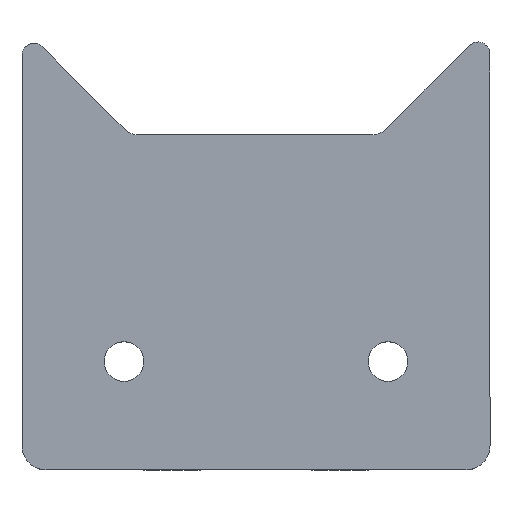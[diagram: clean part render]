
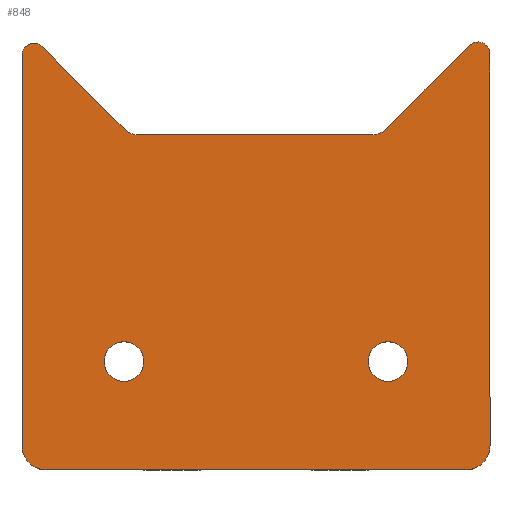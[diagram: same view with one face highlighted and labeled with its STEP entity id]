
A CAD part, top view. The second image highlights one B-rep face of the part: STEP entity #848.
In plain terms, the highlighted planar face has unit normal (0, 0, 1).
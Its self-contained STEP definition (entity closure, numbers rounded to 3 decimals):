
#47=FACE_BOUND('',#137,.T.);
#48=FACE_BOUND('',#138,.T.);
#58=PLANE('',#933);
#85=FACE_OUTER_BOUND('',#136,.T.);
#136=EDGE_LOOP('',(#641,#642,#643,#644,#645,#646,#647,#648,#649,#650,#651,
#652));
#137=EDGE_LOOP('',(#653));
#138=EDGE_LOOP('',(#654));
#184=LINE('',#1283,#249);
#202=LINE('',#1340,#267);
#208=LINE('',#1357,#273);
#212=LINE('',#1369,#277);
#215=LINE('',#1380,#280);
#216=LINE('',#1383,#281);
#249=VECTOR('',#1019,10.);
#267=VECTOR('',#1065,10.);
#273=VECTOR('',#1081,10.);
#277=VECTOR('',#1093,10.);
#280=VECTOR('',#1106,10.);
#281=VECTOR('',#1109,10.);
#310=CIRCLE('',#903,1.);
#321=CIRCLE('',#919,2.);
#326=CIRCLE('',#927,1.);
#327=CIRCLE('',#932,2.);
#328=CIRCLE('',#934,1.5);
#329=CIRCLE('',#935,1.5);
#330=CIRCLE('',#936,1.65);
#331=CIRCLE('',#937,1.65);
#356=VERTEX_POINT('',#1268);
#357=VERTEX_POINT('',#1269);
#362=VERTEX_POINT('',#1281);
#385=VERTEX_POINT('',#1333);
#386=VERTEX_POINT('',#1335);
#387=VERTEX_POINT('',#1339);
#394=VERTEX_POINT('',#1359);
#395=VERTEX_POINT('',#1361);
#397=VERTEX_POINT('',#1367);
#399=VERTEX_POINT('',#1377);
#400=VERTEX_POINT('',#1379);
#401=VERTEX_POINT('',#1381);
#402=VERTEX_POINT('',#1384);
#403=VERTEX_POINT('',#1386);
#438=EDGE_CURVE('',#356,#357,#310,.T.);
#445=EDGE_CURVE('',#356,#362,#184,.T.);
#471=EDGE_CURVE('',#385,#386,#321,.T.);
#473=EDGE_CURVE('',#387,#386,#202,.T.);
#483=EDGE_CURVE('',#385,#357,#208,.F.);
#485=EDGE_CURVE('',#394,#395,#326,.T.);
#489=EDGE_CURVE('',#394,#397,#212,.F.);
#492=EDGE_CURVE('',#387,#397,#327,.T.);
#493=EDGE_CURVE('',#399,#362,#328,.T.);
#494=EDGE_CURVE('',#399,#400,#215,.T.);
#495=EDGE_CURVE('',#401,#400,#329,.T.);
#496=EDGE_CURVE('',#401,#395,#216,.T.);
#497=EDGE_CURVE('',#402,#402,#330,.T.);
#498=EDGE_CURVE('',#403,#403,#331,.T.);
#641=ORIENTED_EDGE('',*,*,#438,.F.);
#642=ORIENTED_EDGE('',*,*,#445,.T.);
#643=ORIENTED_EDGE('',*,*,#493,.F.);
#644=ORIENTED_EDGE('',*,*,#494,.T.);
#645=ORIENTED_EDGE('',*,*,#495,.F.);
#646=ORIENTED_EDGE('',*,*,#496,.T.);
#647=ORIENTED_EDGE('',*,*,#485,.F.);
#648=ORIENTED_EDGE('',*,*,#489,.T.);
#649=ORIENTED_EDGE('',*,*,#492,.F.);
#650=ORIENTED_EDGE('',*,*,#473,.T.);
#651=ORIENTED_EDGE('',*,*,#471,.F.);
#652=ORIENTED_EDGE('',*,*,#483,.T.);
#653=ORIENTED_EDGE('',*,*,#497,.T.);
#654=ORIENTED_EDGE('',*,*,#498,.T.);
#848=ADVANCED_FACE('',(#85,#47,#48),#58,.T.);
#903=AXIS2_PLACEMENT_3D('',#1270,#1007,#1008);
#919=AXIS2_PLACEMENT_3D('',#1336,#1060,#1061);
#927=AXIS2_PLACEMENT_3D('',#1362,#1085,#1086);
#932=AXIS2_PLACEMENT_3D('',#1375,#1100,#1101);
#933=AXIS2_PLACEMENT_3D('',#1376,#1102,#1103);
#934=AXIS2_PLACEMENT_3D('',#1378,#1104,#1105);
#935=AXIS2_PLACEMENT_3D('',#1382,#1107,#1108);
#936=AXIS2_PLACEMENT_3D('',#1385,#1110,#1111);
#937=AXIS2_PLACEMENT_3D('',#1387,#1112,#1113);
#1007=DIRECTION('center_axis',(0.,0.,
-1.));
#1008=DIRECTION('ref_axis',(0.383,0.924,0.));
#1019=DIRECTION('',(-0.707,-0.707,0.));
#1060=DIRECTION('center_axis',(0.,0.,
-1.));
#1061=DIRECTION('ref_axis',(0.707,-0.707,0.));
#1065=DIRECTION('',(1.,0.,0.));
#1081=DIRECTION('',(0.,-1.,0.));
#1085=DIRECTION('center_axis',(0.,0.,
-1.));
#1086=DIRECTION('ref_axis',(-0.383,0.924,0.));
#1093=DIRECTION('',(0.,1.,0.));
#1100=DIRECTION('center_axis',(0.,0.,
-1.));
#1101=DIRECTION('ref_axis',(-0.707,-0.707,0.));
#1102=DIRECTION('center_axis',(0.,0.,
1.));
#1103=DIRECTION('ref_axis',(-1.,0.,0.));
#1104=DIRECTION('center_axis',(0.,0.,
1.));
#1105=DIRECTION('ref_axis',(0.383,-0.924,0.));
#1106=DIRECTION('',(-1.,0.,0.));
#1107=DIRECTION('center_axis',(0.,0.,
1.));
#1108=DIRECTION('ref_axis',(-0.383,-0.924,0.));
#1109=DIRECTION('',(-0.707,0.707,0.));
#1110=DIRECTION('center_axis',(0.,0.,
-1.));
#1111=DIRECTION('ref_axis',(-1.,0.,0.));
#1112=DIRECTION('center_axis',(0.,0.,
-1.));
#1113=DIRECTION('ref_axis',(-1.,0.,0.));
#1268=CARTESIAN_POINT('',(-2.207,-20.862,-1.65));
#1269=CARTESIAN_POINT('',(-0.5,-21.569,-1.65));
#1270=CARTESIAN_POINT('Origin',(-1.5,-21.569,-1.65));
#1281=CARTESIAN_POINT('',(-9.206,-27.861,-1.65));
#1283=CARTESIAN_POINT('',(-10.015,-28.669,-1.65));
#1333=CARTESIAN_POINT('',(-0.5,-54.227,-1.65));
#1335=CARTESIAN_POINT('',(-2.5,-56.227,-1.65));
#1336=CARTESIAN_POINT('Origin',(-2.5,-54.227,-1.65));
#1339=CARTESIAN_POINT('',(-37.5,-56.227,-1.65));
#1340=CARTESIAN_POINT('',(-33.5,-56.227,-1.65));
#1357=CARTESIAN_POINT('',(-0.5,-22.457,-1.65));
#1359=CARTESIAN_POINT('',(-39.5,-21.688,-1.65));
#1361=CARTESIAN_POINT('',(-37.793,-20.981,-1.65));
#1362=CARTESIAN_POINT('Origin',(-38.5,-21.688,-1.65));
#1367=CARTESIAN_POINT('',(-39.5,-54.227,-1.65));
#1369=CARTESIAN_POINT('',(-39.5,-43.971,-1.65));
#1375=CARTESIAN_POINT('Origin',(-37.5,-54.227,-1.65));
#1376=CARTESIAN_POINT('Origin',(-20.,-33.714,-1.65));
#1377=CARTESIAN_POINT('',(-10.267,-28.3,-1.65));
#1378=CARTESIAN_POINT('Origin',(-10.267,-26.8,-1.65));
#1379=CARTESIAN_POINT('',(-29.853,-28.3,-1.65));
#1380=CARTESIAN_POINT('',(-14.823,-28.3,-1.65));
#1381=CARTESIAN_POINT('',(-30.913,-27.861,-1.65));
#1382=CARTESIAN_POINT('Origin',(-29.853,-26.8,-1.65));
#1383=CARTESIAN_POINT('',(-26.502,-32.272,-1.65));
#1384=CARTESIAN_POINT('',(-7.35,-47.2,-1.65));
#1385=CARTESIAN_POINT('Origin',(-9.,-47.2,-1.65));
#1386=CARTESIAN_POINT('',(-29.35,-47.2,-1.65));
#1387=CARTESIAN_POINT('Origin',(-31.,-47.2,-1.65));
